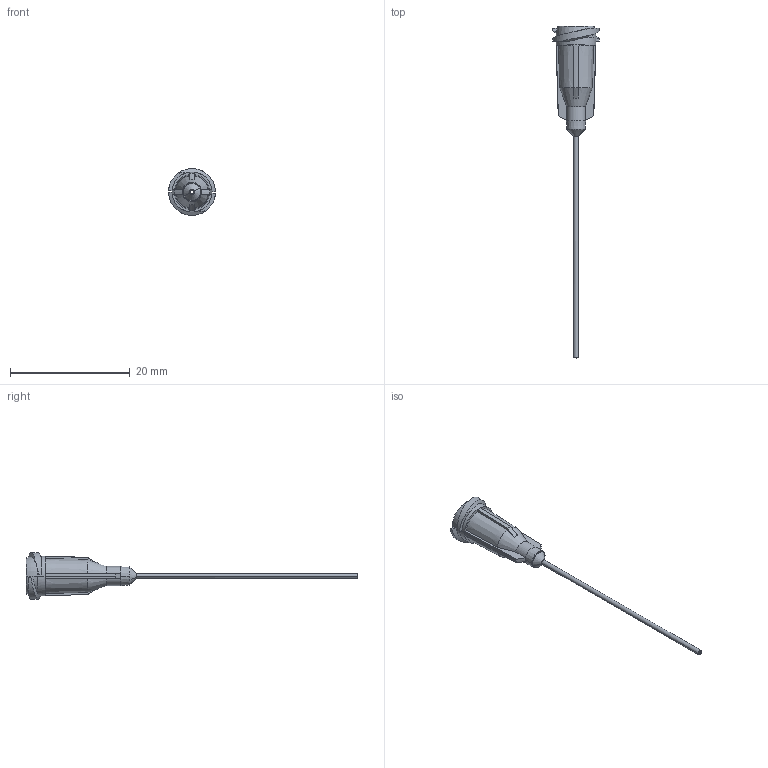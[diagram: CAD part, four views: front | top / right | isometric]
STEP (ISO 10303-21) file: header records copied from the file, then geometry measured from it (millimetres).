
FILE_DESCRIPTION (( 'STEP AP214' ), '1' );
FILE_NAME ('NORDSONEFD-7018224 TIP 21GA GP 020 X 15 PR.STEP', '2018-12-20T21:45:19', ( '' ), ( '' ), 'SwSTEP 2.0', 'SolidWorks 2018', '' );
FILE_SCHEMA (( 'AUTOMOTIVE_DESIGN' ));
Length unit declared in the file: inch
Products named in the file (1): NORDSONEFD-7018224 TIP 21GA GP 020 X 15 PR
Bounding box: 7.82 x 55.47 x 7.82 mm (x, y, z)
Volume: 275.4 mm3; surface area: 702.8 mm2
Topology: 1 solids, 1 shells, 98 faces, 232 edges, 140 vertices
Faces by surface type: plane 26, torus 22, cone 22, cylinder 16, bspline 12
Entity records: 3360 total; most frequent: CARTESIAN_POINT 1005, DIRECTION 468, ORIENTED_EDGE 464, EDGE_CURVE 232, AXIS2_PLACEMENT_3D 205, VERTEX_POINT 140, CIRCLE 118, EDGE_LOOP 104
